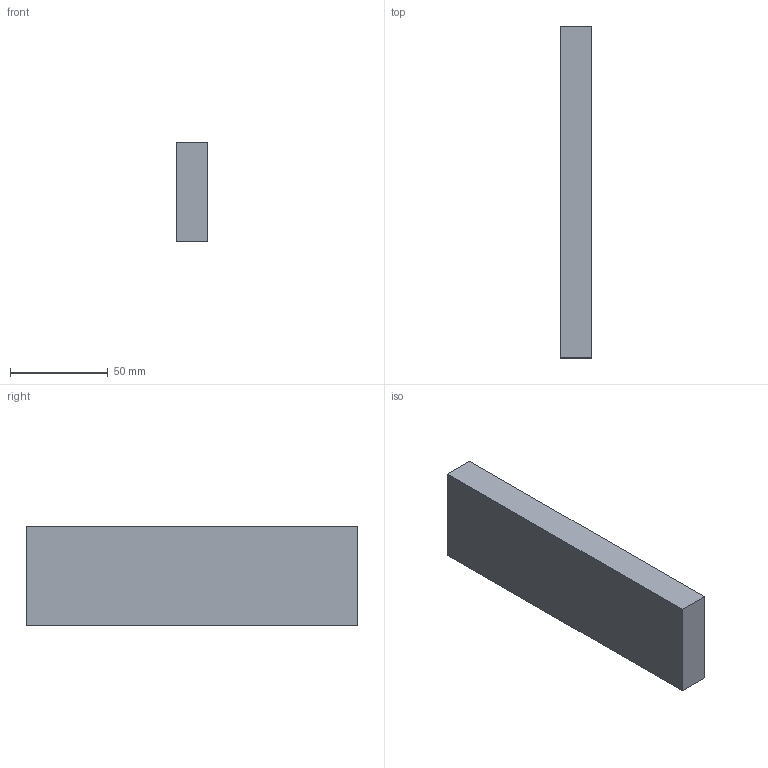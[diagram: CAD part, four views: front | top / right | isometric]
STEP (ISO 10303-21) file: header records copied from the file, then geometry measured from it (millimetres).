
FILE_DESCRIPTION(('Open CASCADE Model'),'2;1');
FILE_NAME('Open CASCADE Shape Model','2026-10-20T13:19:34',('Author'),( 'Open CASCADE'),'Open CASCADE STEP processor 7.9','Open CASCADE 7.9' ,'Unknown');
FILE_SCHEMA(('AUTOMOTIVE_DESIGN { 1 0 10303 214 1 1 1 1 }'));
Length unit declared in the file: millimetre
Products named in the file (1): Open CASCADE STEP translator 7.9 17
Bounding box: 16 x 170 x 51 mm (x, y, z)
Volume: 138720 mm3; surface area: 24412 mm2
Topology: 1 solids, 1 shells, 6 faces, 12 edges, 8 vertices
Faces by surface type: plane 6
Entity records: 322 total; most frequent: CARTESIAN_POINT 51, DIRECTION 50, LINE 36, VECTOR 36, ORIENTED_EDGE 24, PCURVE 24, DEFINITIONAL_REPRESENTATION 24, EDGE_CURVE 12
